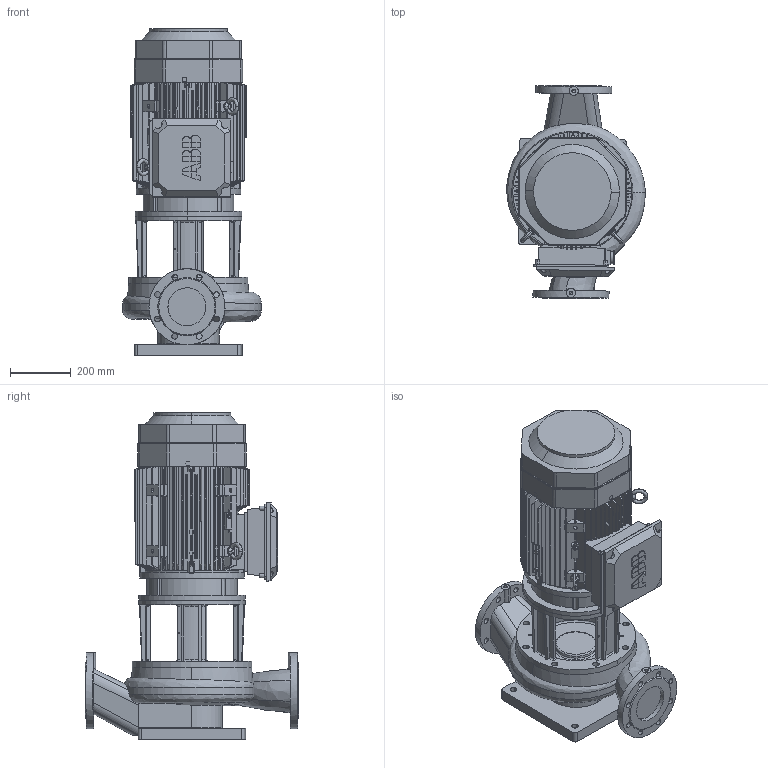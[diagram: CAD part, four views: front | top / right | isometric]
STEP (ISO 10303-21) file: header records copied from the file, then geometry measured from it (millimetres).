
FILE_DESCRIPTION(('STEP AP214'),'1');
FILE_NAME('export.stp','2018-05-30T06:35:02',(' '),(' '),'Spatial InterOp 3D',' ',' ');
FILE_SCHEMA(('AUTOMOTIVE_DESIGN { 1 0 10303 214 1 1 1 1 }'));
Length unit declared in the file: millimetre
Products named in the file (19): V_PPALP1128; PP_ALP1128_kesken; Tukijalka_ALP1128; W_ALP11284SD220; V_TL110611291154; IEC180_FRAME; P100781; IEC-180; 3GZV311000-999999-324000-324001_; 3GZV183002-193006-183002-183999_; -simplified-simplified_parts_Sta; -simplified-simplified_parts_M31; -simplified-simplified_parts_Fan; -simplified-simplified_parts_Ter; 3GZV244000-310999-294000-299999_; Implementation-STANDARD_PARTS_Li
Assembly tree (19 placements, depth 4):
  W_ALP11284SD220
    V_PPALP1128
      PP_ALP1128_kesken
      Tukijalka_ALP1128
    V_TL110611291154
    IEC180_FRAME
      P100781
      IEC-180
        3GZV311000-999999-324000-324001_
        3GZV183002-193006-183002-183999_
        -simplified-simplified_parts_Sta
        -simplified-simplified_parts_M31
        -simplified-simplified_parts_Fan
        -simplified-simplified_parts_Ter
        -simplified-simplified_parts_Ter
        3GZV244000-310999-294000-299999_
        3GZV244000-310999-294000-299999_
        3GZV244000-310999-294000-299999_
        Implementation-STANDARD_PARTS_Li  x2
Bounding box: 456 x 702.41 x 1074.44 mm (x, y, z)
Volume: 93660083.8 mm3; surface area: 4999158.6 mm2
Topology: 11 solids, 141 shells, 1580 faces, 4492 edges, 3055 vertices
Faces by surface type: bspline 1259, cylinder 186, plane 65, torus 44, cone 26
Entity records: 84535 total; most frequent: CARTESIAN_POINT 29017, ORIENTED_EDGE 8209, STYLED_ITEM 4566, PRESENTATION_STYLE_ASSIGNMENT 4566, COLOUR_RGB 4566, EDGE_CURVE 4350, CURVE_STYLE 3006, DRAUGHTING_PRE_DEFINED_CURVE_FONT 3006
